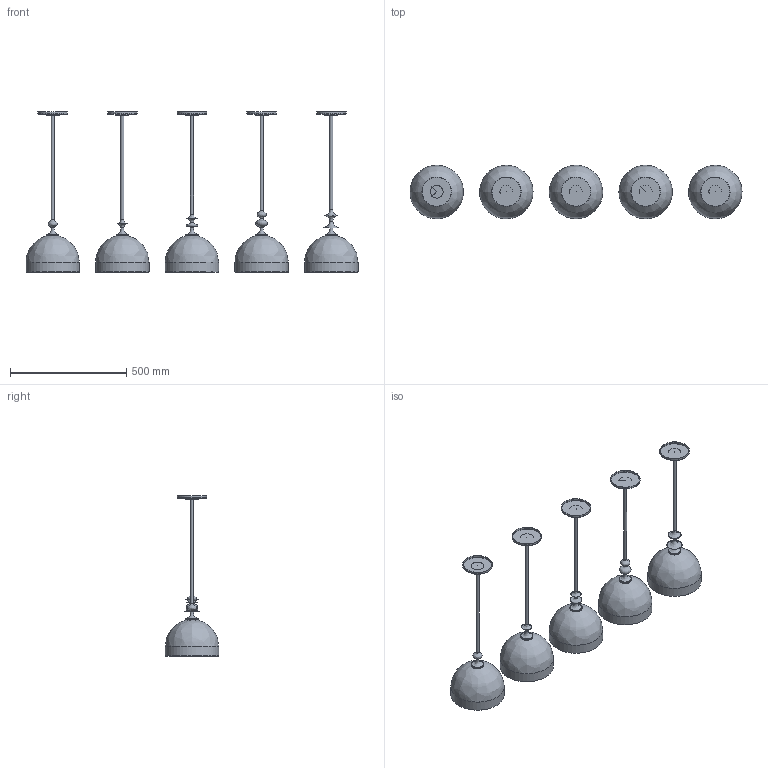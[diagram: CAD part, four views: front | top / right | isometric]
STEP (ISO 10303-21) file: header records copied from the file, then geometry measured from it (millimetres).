
FILE_DESCRIPTION(/* description */ (''),/* implementation_level */ '2;1');
FILE_NAME(/* name */ 'SkLO_AvroKO_ElizabethIPendant_3D_LT621-LT625',/* time_stamp */ '2025-08-05T18:03:37+02:00',/* author */ (''),/* organization */ (''),/* preprocessor_version */ 'ST-DEVELOPER v16.5',/* originating_system */ 'Rhino 7.38',/* authorisation */ '');
FILE_SCHEMA (('CONFIG_CONTROL_DESIGN'));
Length unit declared in the file: millimetre
Products named in the file (1): Document
Bounding box: 1430 x 229.87 x 689.57 mm (x, y, z)
Volume: 4287718.9 mm3; surface area: 1980122.3 mm2
Topology: 81 solids, 82 shells, 721 faces, 1530 edges, 875 vertices
Faces by surface type: bspline 392, cylinder 203, plane 126
Full cylindrical faces by diameter (mm): 11 x1, 13 x5, 18.275 x5, 20 x6, 21 x5, 24 x10, 24.077 x10, 27.5 x5, 28.633 x5, 29.14 x5, 29.988 x5, 30.8 x5, 31.497 x5, 32.18 x5, 32.2 x10, 32.317 x25, 33 x6, 34 x5, 36 x10, 38 x5, 48 x5, 50 x10, 52 x10, 124 x5, 127 x5, 220 x5, 230 x5
Entity records: 133530 total; most frequent: CARTESIAN_POINT 124249, ORIENTED_EDGE 2925, EDGE_CURVE 1463, VERTEX_POINT 875, EDGE_LOOP 751, ADVANCED_FACE 721, FACE_OUTER_BOUND 721, B_SPLINE_CURVE_WITH_KNOTS 543
